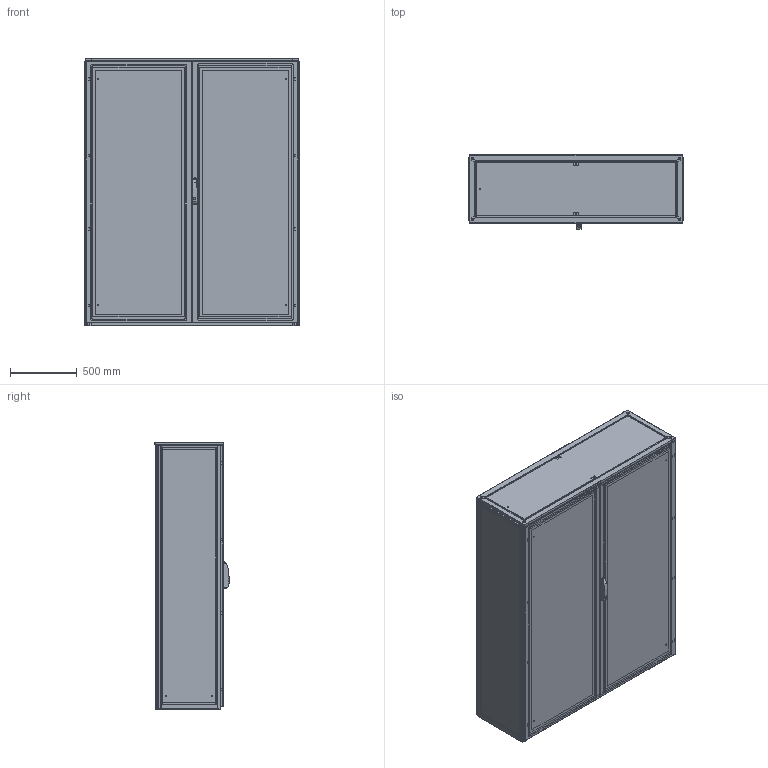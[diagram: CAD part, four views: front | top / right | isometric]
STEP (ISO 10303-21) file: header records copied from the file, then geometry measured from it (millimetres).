
FILE_DESCRIPTION(/* description */ ('STEP AP214'),/* implementation_level */ '2;1');
FILE_NAME(/* name */ 'ENUX162005PR -LOD350',/* time_stamp */ '2025-10-06T10:24:31+02:00',/* author */ ('License CC BY-ND 4.0'),/* organization */ ('CADENAS'),/* preprocessor_version */ 'ST-DEVELOPER v19.3',/* originating_system */ 'PARTsolutions',/* authorisation */ ' ');
FILE_SCHEMA (('AUTOMOTIVE_DESIGN {1 0 10303 214 3 1 1}'));
Length unit declared in the file: millimetre
Products named in the file (11): ENUX162005PR  -LOD350; ENUX162005PR  -LOD3501; ENUX162005PR  -LOD3507; ENUX162005PR  -LOD3502; ENUX162005PR  -LOD35011; ENUX162005PR  -LOD3503; ENUX162005PR  -LOD3508; ENUX162005PR  -LOD3505; ENUX162005PR  -LOD3504; ENUX162005PR  -LOD35010; ENUX162005PR  -LOD3509
Assembly tree (17 placements, depth 2):
  ENUX162005PR  -LOD350
    ENUX162005PR  -LOD3501
    ENUX162005PR  -LOD3507  x2
    ENUX162005PR  -LOD3502
    ENUX162005PR  -LOD35011
    ENUX162005PR  -LOD3503
    ENUX162005PR  -LOD3508
    ENUX162005PR  -LOD3505
    ENUX162005PR  -LOD3504
    ENUX162005PR  -LOD35010  x4
    ENUX162005PR  -LOD3509  x4
Bounding box: 1612 x 557 x 2008.5 mm (x, y, z)
Volume: 34110024.7 mm3; surface area: 28539845.3 mm2
Topology: 17 solids, 24 shells, 1518 faces, 4087 edges, 2672 vertices
Faces by surface type: plane 912, cylinder 556, torus 30, cone 12, sphere 8
Full cylindrical faces by diameter (mm): 6 x15, 9 x13, 12 x4, 14 x2, 17 x2, 28 x2
Entity records: 36582 total; most frequent: CARTESIAN_POINT 6695, DIRECTION 6211, ORIENTED_EDGE 6118, EDGE_CURVE 3059, AXIS2_PLACEMENT_3D 2071, LINE 2069, VECTOR 2069, VERTEX_POINT 2022
